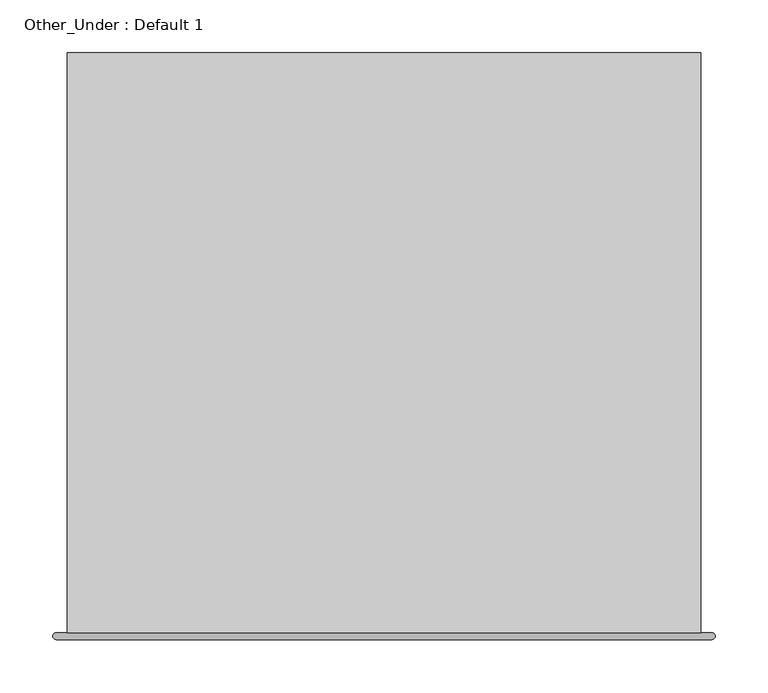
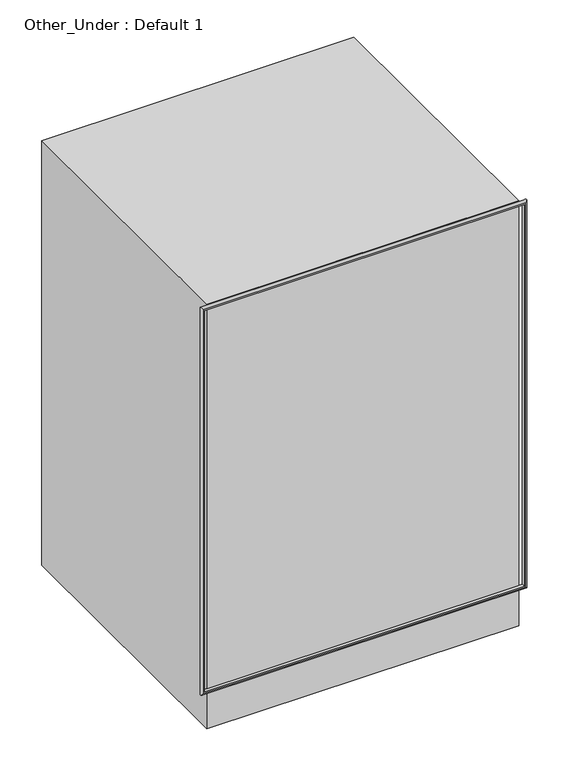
"""IFC4 building model written with IfcOpenShell, lengths in millimetres: proxy geometry, Other_Under : Default 1."""

import ifcopenshell
import ifcopenshell.guid

model = None  # the IFC model being written
_history = None  # IfcOwnerHistory: only IFC2X3 demands one
_inside = {}  # id of a spatial element -> (the spatial element, [elements in it])
_under = {}  # id of a project, library or spatial element -> (it, [spatial elements below it])
_declared = {}  # id of a project -> (the project, [libraries it declares])
_typed = {}  # id of a type object -> (the type object, [elements of that type])
_made_of = {}  # id of a material, layer set ... -> (it, [elements and type objects made of it])


def new_model(schema):
    """Start an empty IFC model of exactly this schema.

    Asked for "IFC4X3", IfcOpenShell would pick the latest addendum, in which some entities
    have other attributes; the version numbers below select the first issue.
    IFC2X3 requires an IfcOwnerHistory on every rooted entity: one is made here for all.
    """
    global model, _history
    if schema == "IFC4X3":
        model = ifcopenshell.file(schema_version=(4, 3, 0, 0))
    else:
        model = ifcopenshell.file(schema=schema)
    _inside.clear()
    _under.clear()
    _declared.clear()
    _typed.clear()
    _made_of.clear()
    _history = None
    if model.schema == "IFC2X3":
        org = make("IfcOrganization", Name="unknown")
        user = make(
            "IfcPersonAndOrganization",
            ThePerson=make("IfcPerson", FamilyName="unknown"),
            TheOrganization=org,
        )
        app = make(
            "IfcApplication",
            ApplicationDeveloper=org,
            Version="unknown",
            ApplicationFullName="unknown",
            ApplicationIdentifier="unknown",
        )
        _history = make(
            "IfcOwnerHistory",
            OwningUser=user,
            OwningApplication=app,
            ChangeAction="ADDED",
            CreationDate=0,
        )
    return model


def make(cls, **values):
    """One entity of the class cls with the attributes given. An attribute that is None is left unset."""
    return model.create_entity(
        cls, **{name: value for name, value in values.items() if value is not None}
    )


def rooted(cls, **values):
    """An entity with a GlobalId (a new one), such as an element, a storey or a relation."""
    return make(cls, GlobalId=ifcopenshell.guid.new(), OwnerHistory=_history, **values)


def si_unit(unit_type, name, prefix=None):
    """IfcSIUnit, for example si_unit("LENGTHUNIT", "METRE", prefix="MILLI")."""
    return make("IfcSIUnit", UnitType=unit_type, Prefix=prefix, Name=name)


def assignment(units):
    """IfcUnitAssignment: the units of a project."""
    return None if units is None else make("IfcUnitAssignment", Units=units)


def point(xyz):
    """IfcCartesianPoint."""
    return None if xyz is None else make("IfcCartesianPoint", Coordinates=xyz)


def direction(xyz):
    """IfcDirection."""
    return None if xyz is None else make("IfcDirection", DirectionRatios=xyz)


def frame(location, z_axis=None, x_axis=None):
    """IfcAxis2Placement3D, a coordinate frame: its origin and axes. An axis left out is left unset."""
    return make(
        "IfcAxis2Placement3D",
        Location=point(location),
        Axis=direction(z_axis),
        RefDirection=direction(x_axis),
    )


def origin():
    """The frame at (0, 0, 0) with its axes left unset."""
    return frame((0.0, 0.0, 0.0))


def origin_with_axes():
    """The frame at (0, 0, 0) with the z axis (0, 0, 1) and the x axis (1, 0, 0) written out."""
    return frame((0.0, 0.0, 0.0), z_axis=(0.0, 0.0, 1.0), x_axis=(1.0, 0.0, 0.0))


def place(relative_to, where):
    """IfcLocalPlacement: puts the frame where relative to a parent placement (None: the world)."""
    return make(
        "IfcLocalPlacement", PlacementRelTo=relative_to, RelativePlacement=where
    )


def context(
    kind, dimensions, precision=None, world=None, true_north=None, identifier=None
):
    """IfcGeometricRepresentationContext, for example the 3D "Model" context."""
    return make(
        "IfcGeometricRepresentationContext",
        ContextIdentifier=identifier,
        ContextType=kind,
        CoordinateSpaceDimension=dimensions,
        Precision=precision,
        WorldCoordinateSystem=world,
        TrueNorth=true_north,
    )


def project(units=None, contexts=None):
    """IfcProject with its units and contexts."""
    return rooted(
        "IfcProject",
        Name="project",
        RepresentationContexts=contexts,
        UnitsInContext=assignment(units),
    )


def spatial(cls, under=None, at=None, **own):
    """A site, building, storey or space (cls), placed at a placement, below another one or the project."""
    s = rooted(cls, ObjectPlacement=at, **own)
    if under is not None:
        _under.setdefault(under.id(), (under, []))[1].append(s)
    return s


def polyline(points):
    """IfcPolyline through the points."""
    return make("IfcPolyline", Points=[point(p) for p in points])


def ellipse_curve(where, semi_axis1, semi_axis2):
    """IfcEllipse in the frame where."""
    return make(
        "IfcEllipse", Position=where, SemiAxis1=semi_axis1, SemiAxis2=semi_axis2
    )


def outline(outer, holes=None, kind="AREA"):
    """IfcArbitraryClosedProfileDef: a profile drawn as a closed curve; with holes, ...WithVoids."""
    if holes is None:
        return make("IfcArbitraryClosedProfileDef", ProfileType=kind, OuterCurve=outer)
    return make(
        "IfcArbitraryProfileDefWithVoids",
        ProfileType=kind,
        OuterCurve=outer,
        InnerCurves=holes,
    )


def extrude(swept, where, along, depth):
    """IfcExtrudedAreaSolid: the profile swept, set in the frame where, extruded along a direction by depth."""
    return make(
        "IfcExtrudedAreaSolid",
        SweptArea=swept,
        Position=where,
        ExtrudedDirection=direction(along),
        Depth=depth,
    )


def shape(context_of_items, identifier, shape_type, items):
    """IfcShapeRepresentation: the items that make up one representation, for example the "Body"."""
    return make(
        "IfcShapeRepresentation",
        ContextOfItems=context_of_items,
        RepresentationIdentifier=identifier,
        RepresentationType=shape_type,
        Items=items,
    )


def source(mapping_origin, context_of_items, identifier, shape_type, items):
    """IfcRepresentationMap: a shape defined once, which mapped items show again and again."""
    return make(
        "IfcRepresentationMap",
        MappingOrigin=mapping_origin,
        MappedRepresentation=shape(context_of_items, identifier, shape_type, items),
    )


def transform(
    local_origin,
    x_axis=None,
    y_axis=None,
    z_axis=None,
    scale=None,
    scale2=None,
    scale3=None,
    uniform=True,
):
    """IfcCartesianTransformationOperator3D, or its non-uniform kind. x_axis, y_axis, z_axis: its Axis1, 2, 3."""
    if uniform:
        return make(
            "IfcCartesianTransformationOperator3D",
            Axis1=direction(x_axis),
            Axis2=direction(y_axis),
            LocalOrigin=point(local_origin),
            Scale=scale,
            Axis3=direction(z_axis),
        )
    return make(
        "IfcCartesianTransformationOperator3DnonUniform",
        Axis1=direction(x_axis),
        Axis2=direction(y_axis),
        LocalOrigin=point(local_origin),
        Scale=scale,
        Axis3=direction(z_axis),
        Scale2=scale2,
        Scale3=scale3,
    )


def mapped(mapping_source, mapping_target):
    """IfcMappedItem: shows the shape of a source again, moved by a transform."""
    return make(
        "IfcMappedItem", MappingSource=mapping_source, MappingTarget=mapping_target
    )


def made_of(thing, what):
    """Note that an element or type object is made of a material, layer set ...; save() writes the relation."""
    if what is not None:
        _made_of.setdefault(what.id(), (what, []))[1].append(thing)
    return thing


def element(
    cls,
    number,
    at=None,
    inside=None,
    cuts=None,
    type_object=None,
    material=None,
    context=None,
    identifier="Body",
    shape_type=None,
    held_by="IfcProductDefinitionShape",
    body=None,
    shapes=None,
    **own,
):
    """One element of the class cls, such as IfcWall. Its Tag is "e" and its number.

    at: its placement. inside: the storey or other place that contains it. cuts: it is an
    opening in that element (IfcRelVoidsElement). A single representation is given by context,
    identifier, shape_type and body (its items); several are given by shapes. held_by: the class
    of the entity that holds the representations. save() writes the other relations.
    """
    e = rooted(cls, Tag="e%d" % number, ObjectPlacement=at, **own)
    if body is not None:
        shapes = [shape(context, identifier, shape_type, body)]
    if shapes is not None:
        e.Representation = make(held_by, Representations=shapes)
    if inside is not None:
        _inside.setdefault(inside.id(), (inside, []))[1].append(e)
    if cuts is not None:
        rooted(
            "IfcRelVoidsElement", RelatingBuildingElement=cuts, RelatedOpeningElement=e
        )
    if type_object is not None:
        _typed.setdefault(type_object.id(), (type_object, []))[1].append(e)
    return made_of(e, material)


def aggregate(whole, parts):
    """IfcRelAggregates: a whole, such as a stair, and the parts it consists of."""
    return rooted("IfcRelAggregates", RelatingObject=whole, RelatedObjects=parts)


def save(model, path):
    """Write the relations noted so far, then the file.

    IfcRelAggregates (storeys below a building ...), IfcRelContainedInSpatialStructure (elements
    in a storey), IfcRelDefinesByType, IfcRelAssociatesMaterial and IfcRelDeclares: one each for
    every whole, place, type object, material and project.
    """
    for whole, parts in _under.values():
        aggregate(whole, parts)
    for where, things in _inside.values():
        rooted(
            "IfcRelContainedInSpatialStructure",
            RelatedElements=things,
            RelatingStructure=where,
        )
    for kind, things in _typed.values():
        rooted("IfcRelDefinesByType", RelatedObjects=things, RelatingType=kind)
    for what, things in _made_of.values():
        rooted("IfcRelAssociatesMaterial", RelatedObjects=things, RelatingMaterial=what)
    for by, libraries in _declared.values():
        rooted("IfcRelDeclares", RelatingContext=by, RelatedDefinitions=libraries)
    model.write(path)


def plane_surface(at):
    """IfcPlane: the flat surface through the origin of the frame at, square to its z axis."""
    return make("IfcPlane", Position=at)


def cylinder_surface(at, radius):
    """IfcCylindricalSurface: all points at the distance radius from the z axis of the frame at."""
    return make("IfcCylindricalSurface", Position=at, Radius=radius)


def advanced_brep(points, edges, surfaces, faces):
    """IfcAdvancedBrep: a solid bounded by faces that lie on surfaces and meet in shared edges.

    An edge is (start, end): straight between two places in points (the first is 0);
    or (start, end, curve); or (start, end, curve, False) where it runs against its curve.
    A face is (place in surfaces, loops), or (place, loops, False) where it looks against
    its surface's normal. A loop lists edges by number (the first is 1), with a minus sign
    where the edge is run from its end to its start. The first loop is the outer one.
    """
    corners = [point(p) for p in points]
    vertices = [make("IfcVertexPoint", VertexGeometry=c) for c in corners]
    made = []
    for start, end, *more in edges:
        made.append(
            make(
                "IfcEdgeCurve",
                EdgeStart=vertices[start],
                EdgeEnd=vertices[end],
                EdgeGeometry=more[0] if more else make("IfcPolyline", Points=[corners[start], corners[end]]),
                SameSense=more[1] if len(more) > 1 else True,
            )
        )
    hull = []
    for where, loops, *sense in faces:
        bounds = []
        for j, loop in enumerate(loops):
            ring = [make("IfcOrientedEdge", EdgeElement=made[abs(k) - 1], Orientation=k > 0) for k in loop]
            bounds.append(
                make(
                    "IfcFaceOuterBound" if j == 0 else "IfcFaceBound",
                    Bound=make("IfcEdgeLoop", EdgeList=ring),
                    Orientation=True,
                )
            )
        hull.append(make("IfcAdvancedFace", Bounds=bounds, FaceSurface=surfaces[where], SameSense=sense[0] if sense else True))
    return make("IfcAdvancedBrep", Outer=make("IfcClosedShell", CfsFaces=hull))


def other_under_default_1_f665ae8c(model_context):
    return source(origin(), model_context, "Body", "SolidModel", [
        extrude(outline(polyline([(300.0, -100.0), (300.0, -649.2), (-300.0, -649.2), (-300.0, -100.0), (300.0, -100.0)])), origin_with_axes(), (0.0, 0.0, 1.0), 863.6),
        advanced_brep(
        [(307.25, -655.55, 857.25), (307.25, -649.2, 857.25), (307.25, -649.2, 81.65), (307.25, -655.55, 81.65), (310.425, -649.2, 860.425), (310.425, -655.55, 860.425), (310.425, -655.55, 78.475), (310.425, -649.2, 78.475), (-307.25, -649.2, 81.65), (-307.25, -655.55, 81.65), (-310.425, -655.55, 78.475), (-310.425, -649.2, 78.475), (-307.25, -649.2, 857.25), (-307.25, -655.55, 857.25), (-310.425, -655.55, 860.425), (-310.425, -649.2, 860.425)],
        [
            (0, 1),
            (1, 2),
            (2, 3),
            (3, 0),
            (4, 5, ellipse_curve(frame((310.425, -652.375, 860.425), z_axis=(0.7071067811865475, 0.0, -0.7071067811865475), x_axis=(0.7071067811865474, 0.0, 0.7071067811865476)), 4.4901281, 3.175)),
            (5, 6),
            (6, 7, ellipse_curve(frame((310.425, -652.375, 78.475), z_axis=(0.7071067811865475, 0.0, 0.7071067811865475), x_axis=(-0.7071067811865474, 0.0, 0.7071067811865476)), 4.4901281, 3.175)),
            (7, 4),
            (2, 8),
            (8, 9),
            (9, 3),
            (6, 10),
            (10, 11, ellipse_curve(frame((-310.425, -652.375, 78.475), z_axis=(0.7071067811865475, 0.0, -0.7071067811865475), x_axis=(0.7071067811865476, 0.0, 0.7071067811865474)), 4.4901281, 3.175)),
            (11, 7),
            (8, 12),
            (12, 13),
            (13, 9),
            (10, 14),
            (14, 15, ellipse_curve(frame((-310.425, -652.375, 860.425), z_axis=(-0.7071067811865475, 0.0, -0.7071067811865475), x_axis=(0.7071067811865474, 0.0, -0.7071067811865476)), 4.4901281, 3.175)),
            (15, 11),
            (12, 1),
            (0, 13),
            (5, 14),
            (4, 15),
        ],
        [
            plane_surface(frame((307.25, -649.2, 857.25), z_axis=(-1.0, 0.0, 0.0), x_axis=(0.0, 0.0, -1.0))),
            cylinder_surface(frame((310.425, -652.375, 850.0), z_axis=(0.0, 0.0, 1.0), x_axis=(0.0, 1.0, 0.0)), 3.175),
            plane_surface(frame((307.25, -649.2, 81.65), z_axis=(0.0, 0.0, 1.0), x_axis=(-1.0, 0.0, 0.0))),
            cylinder_surface(frame((300.0, -652.375, 78.475), z_axis=(1.0, 0.0, 0.0), x_axis=(0.0, 1.0, 0.0)), 3.175),
            plane_surface(frame((-307.25, -649.2, 81.65), z_axis=(1.0, 0.0, 0.0), x_axis=(0.0, 0.0, 1.0))),
            cylinder_surface(frame((-310.425, -652.375, 88.9), z_axis=(0.0, 0.0, -1.0), x_axis=(0.0, 1.0, 0.0)), 3.175),
            plane_surface(frame((-307.25, -649.2, 857.25), z_axis=(0.0, 0.0, -1.0), x_axis=(1.0, 0.0, 0.0))),
            plane_surface(frame((-307.25, -655.55, 857.25), z_axis=(0.0, -1.0, 0.0), x_axis=(1.0, 0.0, 0.0))),
            cylinder_surface(frame((-300.0, -652.375, 860.425), z_axis=(-1.0, 0.0, 0.0), x_axis=(0.0, 1.0, 0.0)), 3.175),
            plane_surface(frame((-310.425, -649.2, 860.425), z_axis=(0.0, 1.0, 0.0), x_axis=(1.0, 0.0, 0.0))),
        ],
        [
            (0, [[1, 2, 3, 4]]),
            (1, [[5, 6, 7, 8]]),
            (2, [[-3, 9, 10, 11]]),
            (3, [[-7, 12, 13, 14]]),
            (4, [[-10, 15, 16, 17]]),
            (5, [[-13, 18, 19, 20]]),
            (6, [[-16, 21, -1, 22]]),
            (7, [[23, -18, -12, -6], [-11, -17, -22, -4]]),
            (8, [[-19, -23, -5, 24]]),
            (9, [[-14, -20, -24, -8], [-21, -15, -9, -2]]),
        ],
    ),
    ])


if __name__ == "__main__":
    model = new_model("IFC4")
    model_context = context("Model", 3, world=origin())
    ifc_project = project(units=[si_unit("LENGTHUNIT", "METRE", prefix="MILLI")], contexts=[model_context])
    site = spatial("IfcSite", under=ifc_project)
    building = spatial("IfcBuilding", under=site)
    placement = place(None, origin())
    other_under_default_1_shape = other_under_default_1_f665ae8c(model_context)
    element("IfcBuildingElementProxy", 1, Name="Other_Under : Default 1", ObjectType="Other_Under : Default 1", at=placement, inside=building, context=model_context, shape_type="MappedRepresentation", body=[
        mapped(other_under_default_1_shape, transform((0.0, 0.0, 0.0), x_axis=(1.0, 0.0, 0.0), y_axis=(0.0, 1.0, 0.0), z_axis=(0.0, 0.0, 1.0))),
    ])
    save(model, "model.ifc")
